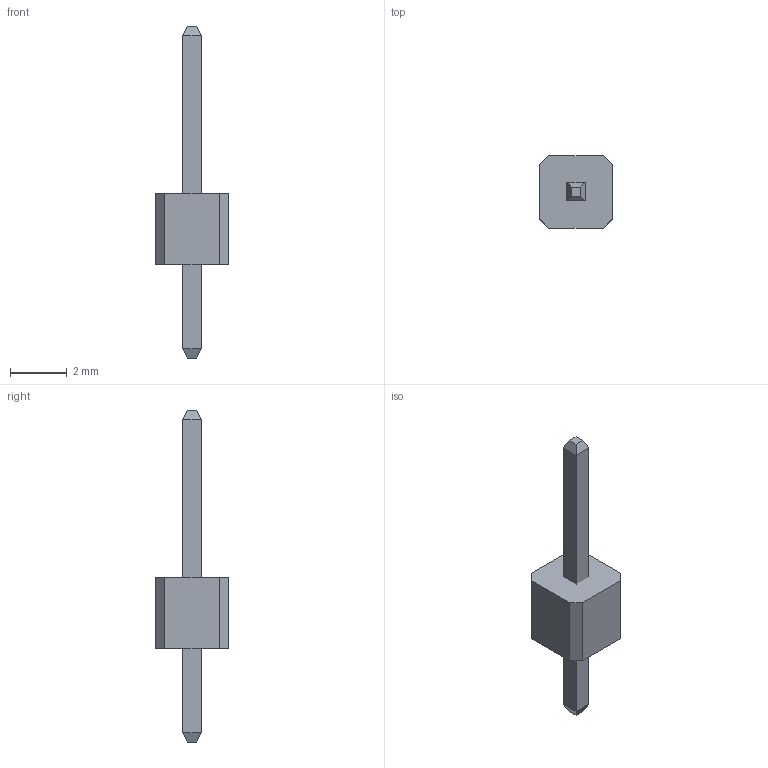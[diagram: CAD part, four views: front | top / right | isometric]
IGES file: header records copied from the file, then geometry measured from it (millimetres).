
Start section: Data from Parasolid IGES Translator 23.1.110, Copyright(c) 2006 Siemens PLM Software. All Rights Reserved.
Global section: file name: 5f3dd41e933f190f816bc982.iges; native system: By Siemens PLM Incorporated; preprocessor: XPlus GENERIC/IGES 23.1.110; author: Noname; organization: Noname; date: 20200820.013838; units: metre
Bounding box: 2.54 x 2.54 x 11.68 mm (x, y, z)
Surface area: 66.7 mm2 (no closed solid volume)
Topology: 0 solids, 0 shells, 30 faces, 128 edges, 128 vertices
Faces by surface type: extrusion 30
